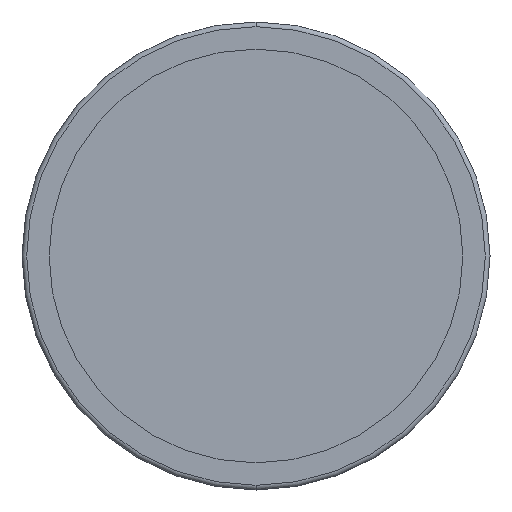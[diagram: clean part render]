
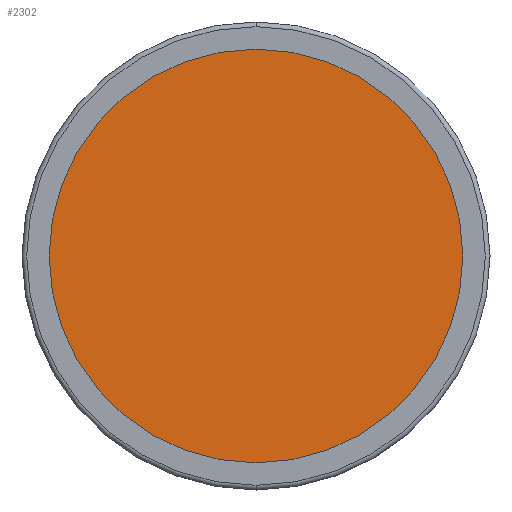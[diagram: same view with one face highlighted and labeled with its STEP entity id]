
A CAD part, front view. The second image highlights one B-rep face of the part: STEP entity #2302.
In plain terms, the highlighted planar face has unit normal (0, -1, 0).
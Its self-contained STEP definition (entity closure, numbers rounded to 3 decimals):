
#589 = DIRECTION ( 'NONE',  ( 0., 0., -1. ) ) ;
#631 = VERTEX_POINT ( 'NONE', #1132 ) ;
#819 = DIRECTION ( 'NONE',  ( 0., 0., 1. ) ) ;
#1079 = VERTEX_POINT ( 'NONE', #1304 ) ;
#1132 = CARTESIAN_POINT ( 'NONE',  ( 0., -3., 43.75 ) ) ;
#1171 = AXIS2_PLACEMENT_3D ( 'NONE', #2845, #2949, #3156 ) ;
#1282 = CARTESIAN_POINT ( 'NONE',  ( 0., -3., 0. ) ) ;
#1304 = CARTESIAN_POINT ( 'NONE',  ( 0., -3., -43.75 ) ) ;
#1355 = PLANE ( 'NONE',  #2705 ) ;
#1371 = FACE_OUTER_BOUND ( 'NONE', #1397, .T. ) ;
#1397 = EDGE_LOOP ( 'NONE', ( #2901, #2735 ) ) ;
#1498 = EDGE_CURVE ( 'NONE', #1079, #631, #2673, .T. ) ;
#1635 = CARTESIAN_POINT ( 'NONE',  ( -43.75, -3., 0. ) ) ;
#1882 = DIRECTION ( 'NONE',  ( 0., -1., 0. ) ) ;
#1950 = AXIS2_PLACEMENT_3D ( 'NONE', #1282, #2993, #819 ) ;
#2302 = ADVANCED_FACE ( 'NONE', ( #1371 ), #1355, .T. ) ;
#2397 = EDGE_CURVE ( 'NONE', #631, #1079, #3020, .T. ) ;
#2673 = CIRCLE ( 'NONE', #1950, 43.75 ) ;
#2705 = AXIS2_PLACEMENT_3D ( 'NONE', #1635, #1882, #589 ) ;
#2735 = ORIENTED_EDGE ( 'NONE', *, *, #1498, .F. ) ;
#2845 = CARTESIAN_POINT ( 'NONE',  ( 0., -3., 0. ) ) ;
#2901 = ORIENTED_EDGE ( 'NONE', *, *, #2397, .F. ) ;
#2949 = DIRECTION ( 'NONE',  ( 0., 1., 0. ) ) ;
#2993 = DIRECTION ( 'NONE',  ( 0., 1., 0. ) ) ;
#3020 = CIRCLE ( 'NONE', #1171, 43.75 ) ;
#3156 = DIRECTION ( 'NONE',  ( 0., 0., 1. ) ) ;
